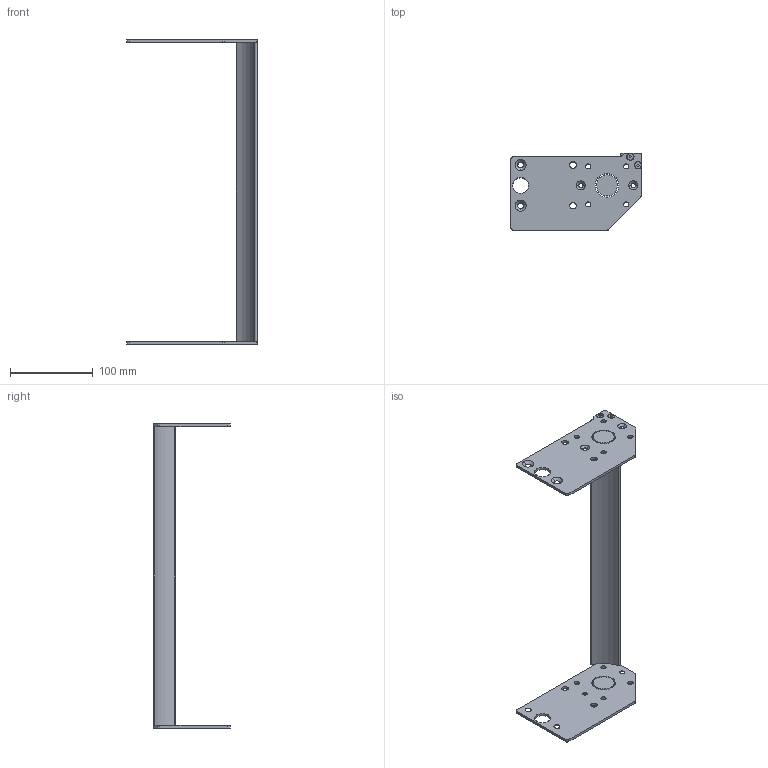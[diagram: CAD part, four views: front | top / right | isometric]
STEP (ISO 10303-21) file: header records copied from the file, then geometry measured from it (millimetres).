
FILE_DESCRIPTION((''),'2;1');
FILE_NAME('27M3300-12_ASM','2017-12-04T',('james.horst'),(''),'PRO/ENGINEER BY PARAMETRIC TECHNOLOGY CORPORATION, 2012420','PRO/ENGINEER BY PARAMETRIC TECHNOLOGY CORPORATION, 2012420','');
FILE_SCHEMA(('CONFIG_CONTROL_DESIGN'));
Length unit declared in the file: inch
Products named in the file (6): 350539-14; 350540; 350541; 930410M; 27M3300-10_ASM_1_ASM; 27M3300-12_ASM
Assembly tree (8 placements, depth 3):
  27M3300-12_ASM
    27M3300-10_ASM_1_ASM
      350539-14
      350540
      350541
      930410M  x4
Bounding box: 157.96 x 92.74 x 367.94 mm (x, y, z)
Volume: 180481.1 mm3; surface area: 97127.1 mm2
Topology: 7 solids, 11 shells, 206 faces, 556 edges, 368 vertices
Faces by surface type: cylinder 96, plane 70, cone 40
Entity records: 5540 total; most frequent: DIRECTION 1022, CARTESIAN_POINT 946, ORIENTED_EDGE 868, EDGE_CURVE 442, AXIS2_PLACEMENT_3D 408, VERTEX_POINT 296, CIRCLE 230, EDGE_LOOP 220
